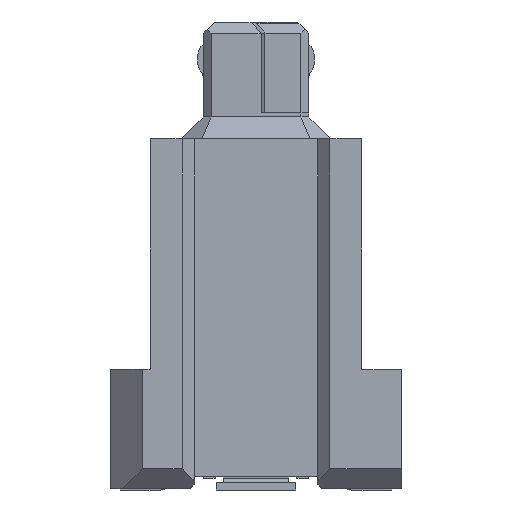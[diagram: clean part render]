
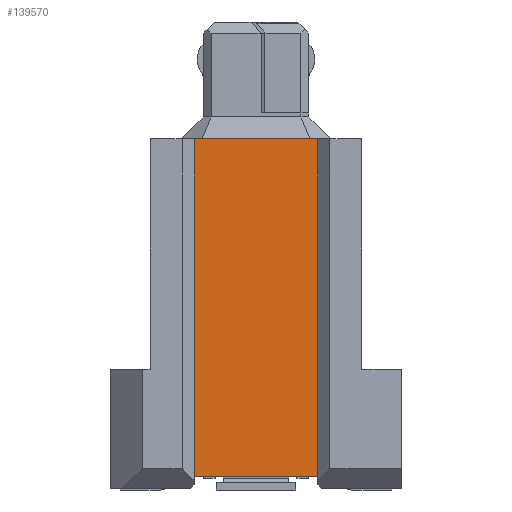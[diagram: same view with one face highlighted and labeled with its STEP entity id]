
A CAD part, left-side view. The second image highlights one B-rep face of the part: STEP entity #139570.
In plain terms, the highlighted planar face has unit normal (-1, 0, 0).
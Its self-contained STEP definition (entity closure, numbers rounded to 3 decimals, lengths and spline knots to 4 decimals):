
#139180=CARTESIAN_POINT('',(-10.0318,-2.3602,5.3));
#139190=DIRECTION('',(-1.,0.,0.));
#139200=DIRECTION('',(0.,1.,0.));
#139210=AXIS2_PLACEMENT_3D('',#139180,#139190,#139200);
#139220=PLANE('',#139210);
#139230=CARTESIAN_POINT('',(-10.0318,3.4098,0.));
#139240=DIRECTION('',(0.,0.,-1.));
#139250=VECTOR('',#139240,1.);
#139260=LINE('',#139230,#139250);
#139270=CARTESIAN_POINT('',(-10.0318,3.4098,4.2));
#139280=VERTEX_POINT('',#139270);
#139290=CARTESIAN_POINT('',(-10.0318,3.4098,1.1));
#139300=VERTEX_POINT('',#139290);
#139310=EDGE_CURVE('',#139280,#139300,#139260,.T.);
#139320=ORIENTED_EDGE('',*,*,#139310,.T.);
#139330=CARTESIAN_POINT('',(-10.0318,1.,4.2));
#139340=DIRECTION('',(0.,-1.,0.));
#139350=VECTOR('',#139340,1.);
#139360=LINE('',#139330,#139350);
#139370=CARTESIAN_POINT('',(-10.0318,-5.0602,4.2));
#139380=VERTEX_POINT('',#139370);
#139390=EDGE_CURVE('',#139280,#139380,#139360,.T.);
#139400=ORIENTED_EDGE('',*,*,#139390,.F.);
#139410=CARTESIAN_POINT('',(-10.0318,-5.0602,0.));
#139420=DIRECTION('',(0.,0.,-1.));
#139430=VECTOR('',#139420,1.);
#139440=LINE('',#139410,#139430);
#139450=CARTESIAN_POINT('',(-10.0318,-5.0602,1.1));
#139460=VERTEX_POINT('',#139450);
#139470=EDGE_CURVE('',#139380,#139460,#139440,.T.);
#139480=ORIENTED_EDGE('',*,*,#139470,.F.);
#139490=CARTESIAN_POINT('',(-10.0318,-1.3602,1.1));
#139500=DIRECTION('',(0.,1.,0.));
#139510=VECTOR('',#139500,1.);
#139520=LINE('',#139490,#139510);
#139530=EDGE_CURVE('',#139460,#139300,#139520,.T.);
#139540=ORIENTED_EDGE('',*,*,#139530,.F.);
#139550=EDGE_LOOP('',(#139540,#139480,#139400,#139320));
#139560=FACE_OUTER_BOUND('',#139550,.T.);
#139570=ADVANCED_FACE('',(#139560),#139220,.T.);
